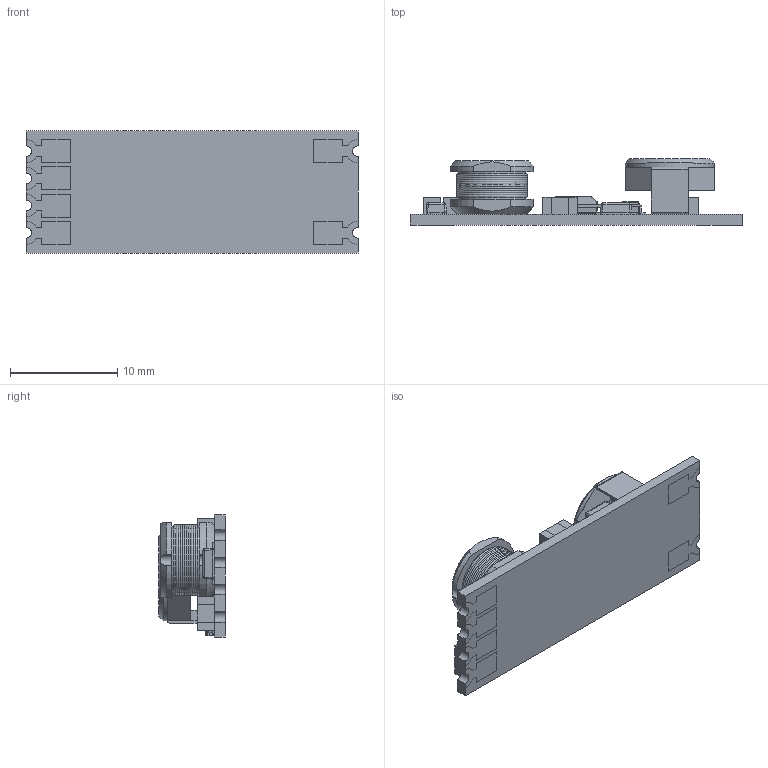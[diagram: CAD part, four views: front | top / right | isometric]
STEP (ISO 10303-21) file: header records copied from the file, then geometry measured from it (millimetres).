
FILE_DESCRIPTION(('FreeCAD Model'),'2;1');
FILE_NAME('X:/Application Engineering/4 Documentation/3 Users/1 MaS/3D Projekt/RCD-24_PL_3D_20190724.step','2019-07-24T14:48:45',('Author'),('' ),'Open CASCADE STEP processor 7.3','FreeCAD','Unknown');
FILE_SCHEMA(('AUTOMOTIVE_DESIGN { 1 0 10303 214 1 1 1 1 }'));
Length unit declared in the file: millimetre
Products named in the file (59): RCD-24_PL_comp004.1; RCD-24_PL_comp013.8; RCD-24_PL_comp010.0; RCD-24_PL_comp012.0; RCD-24_PL_comp007.0; RCD-24_PL_comp013.7; RCD-24_PL_comp011.1; RCD-24_PL_comp013.9; RCD-24_PL_comp013.90; RCD-24_PL_comp006.2; RCD-24_PL_comp011.4; RCD-24_PL_comp010,6; RCD-24_PL_comp006.0; RCD-24_PL_comp008.1; RCD-24_PL_comp014.1; RCD-24_PL_comp013.1; RCD-24_PL_comp013.2; RCD-24_PL_comp009.1; RCD-24_PL_comp008.0; RCD-24_PL_comp009.2; RCD-24_PL_comp006.1; RCD-24_PL_comp014.0; RCD-24_PL_comp013.91; RCD-24_PL_comp013.5; RCD-24_PL_comp013.6; RCD-24_PL_comp013.3; RCD-24_PL_comp011.2; RCD-24_PL_comp009.0; RCD-24_PL_comp014.2; RCD-24_PL_comp010.2; RCD-24_PL_comp011.0; RCD-24_PL_comp011.3; RCD-24_PL_comp013.4; RCD-24_PL_comp010.1; RCD-24_PL_comp005.2; RCD-24_PL_comp011.5; RCD-24_PL_PCB; RCD-24_PL_comp002.0; RCD-24_PL_comp005.0; RCD-24_PL_comp010.5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
Bounding box: 31 x 6.2 x 11.4 mm (x, y, z)
Volume: 802 mm3; surface area: 1883.7 mm2
Topology: 48 solids, 59 shells, 691 faces, 1704 edges, 1108 vertices
Faces by surface type: plane 464, cylinder 178, sphere 34, torus 11, cone 4
Full cylindrical faces by diameter (mm): 5.6 x1, 6.2 x1, 8.3 x1
Entity records: 21683 total; most frequent: CARTESIAN_POINT 3714, DIRECTION 3462, ORIENTED_EDGE 3386, EDGE_CURVE 1704, LINE 1260, VECTOR 1260, VERTEX_POINT 1108, AXIS2_PLACEMENT_3D 1101
